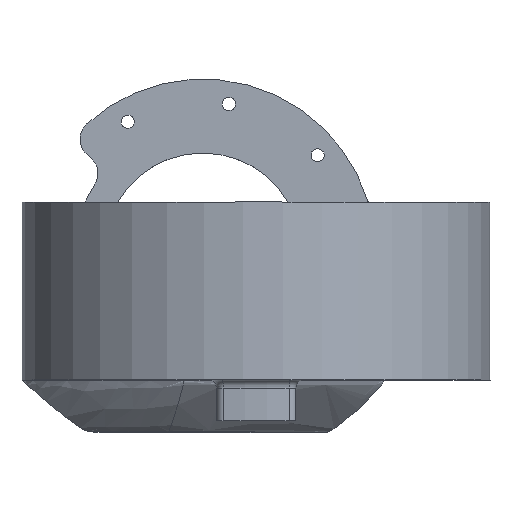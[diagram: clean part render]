
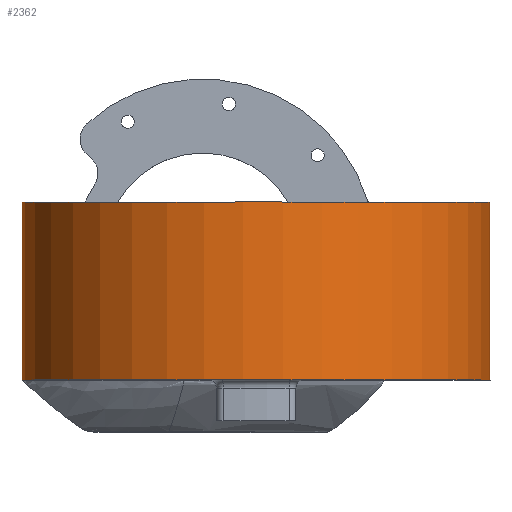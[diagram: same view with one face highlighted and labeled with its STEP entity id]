
A CAD part, top view. The second image highlights one B-rep face of the part: STEP entity #2362.
In plain terms, the highlighted cylindrical face has radius 57 mm (diameter 114 mm), a partial arc.
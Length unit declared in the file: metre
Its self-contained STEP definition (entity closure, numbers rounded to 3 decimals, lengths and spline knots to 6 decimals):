
#30=CYLINDRICAL_SURFACE('',#2625,0.057);
#139=LINE('',#4477,#240);
#140=LINE('',#4478,#241);
#240=VECTOR('',#3064,1.);
#241=VECTOR('',#3065,1.);
#417=CIRCLE('',#2605,0.057);
#433=CIRCLE('',#2622,0.057);
#706=ORIENTED_EDGE('',*,*,#1349,.F.);
#707=ORIENTED_EDGE('',*,*,#1375,.F.);
#708=ORIENTED_EDGE('',*,*,#1371,.T.);
#709=ORIENTED_EDGE('',*,*,#1376,.F.);
#1349=EDGE_CURVE('',#1675,#1676,#417,.T.);
#1371=EDGE_CURVE('',#1697,#1696,#433,.T.);
#1375=EDGE_CURVE('',#1697,#1675,#139,.T.);
#1376=EDGE_CURVE('',#1676,#1696,#140,.F.);
#1675=VERTEX_POINT('',#4421);
#1676=VERTEX_POINT('',#4423);
#1696=VERTEX_POINT('',#4465);
#1697=VERTEX_POINT('',#4467);
#1926=EDGE_LOOP('',(#706,#707,#708,#709));
#2156=FACE_BOUND('',#1926,.T.);
#2362=ADVANCED_FACE('',(#2156),#30,.T.);
#2605=AXIS2_PLACEMENT_3D('',#4422,#3016,#3017);
#2622=AXIS2_PLACEMENT_3D('',#4466,#3056,#3057);
#2625=AXIS2_PLACEMENT_3D('',#4476,#3062,#3063);
#3016=DIRECTION('',(0.,1.,0.));
#3017=DIRECTION('',(0.,0.,-1.));
#3056=DIRECTION('',(0.,1.,0.));
#3057=DIRECTION('',(0.,0.,-1.));
#3062=DIRECTION('',(0.,1.,0.));
#3063=DIRECTION('',(0.,0.,1.));
#3064=DIRECTION('',(0.,1.,0.));
#3065=DIRECTION('',(0.,1.,0.));
#4421=CARTESIAN_POINT('',(-0.257,0.01675,0.3465));
#4422=CARTESIAN_POINT('',(-0.2,0.01675,0.3465));
#4423=CARTESIAN_POINT('',(-0.172659,0.01675,0.296485));
#4465=CARTESIAN_POINT('',(-0.172659,-0.0265,0.296485));
#4466=CARTESIAN_POINT('',(-0.2,-0.0265,0.3465));
#4467=CARTESIAN_POINT('',(-0.257,-0.026506,0.3465));
#4476=CARTESIAN_POINT('',(-0.2,-1.141618,0.3465));
#4477=CARTESIAN_POINT('',(-0.257,-1.141618,0.3465));
#4478=CARTESIAN_POINT('',(-0.172659,-1.141618,0.296485));
